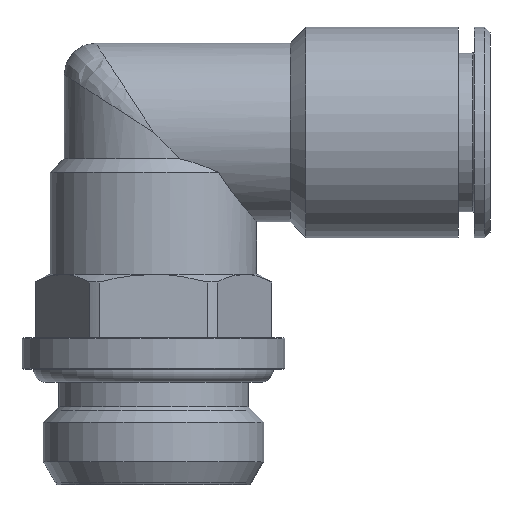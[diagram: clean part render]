
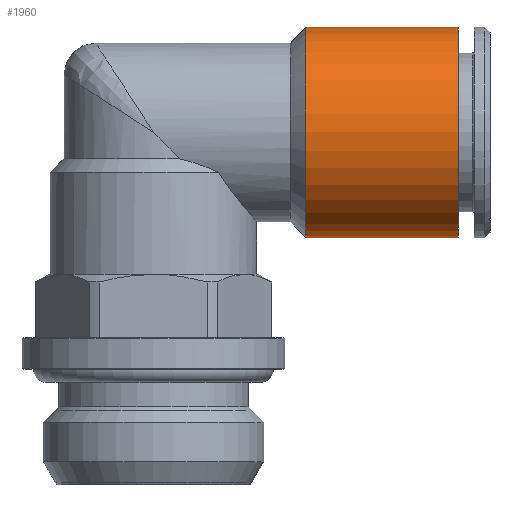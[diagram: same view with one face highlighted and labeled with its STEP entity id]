
A CAD part, front view. The second image highlights one B-rep face of the part: STEP entity #1960.
In plain terms, the highlighted cylindrical face has radius 10 mm (diameter 20 mm), a full revolution.
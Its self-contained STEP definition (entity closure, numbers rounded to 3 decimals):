
#1960=ADVANCED_FACE('', (#1970,#1980), #1990, .T.);
#6860=AXIS2_PLACEMENT_3D('Ax2Pl3d', #6870, #6880, #6890);
#7780=AXIS2_PLACEMENT_3D('Ax2Pl3d', #7790, #7800, #7810);
#7820=AXIS2_PLACEMENT_3D('Ax2Pl3d', #7830, #7840, #7850);
#6870=CARTESIAN_POINT('HicPkt', (43.792,21.386,
21.999));
#22520=CARTESIAN_POINT('', (43.792,21.386,31.999));
#7790=CARTESIAN_POINT('HicPkt', (29.292,21.386,
21.999));
#7830=CARTESIAN_POINT('HicPkt', (29.292,21.386,
21.999));
#22660=CARTESIAN_POINT('', (29.292,21.386,31.999));
#23800=CIRCLE('Circle', #6860, 10.);
#23900=CIRCLE('Circle', #7820, 10.);
#1990=CYLINDRICAL_SURFACE('Zyl', #7780, 10.);
#6880=DIRECTION('Axis', (1.,0.,0.));
#6890=DIRECTION('RefDirection', (0.,0.,-1.));
#7800=DIRECTION('Axis', (1.,0.,0.));
#7810=DIRECTION('RefDirection', (0.,0.,-1.));
#7840=DIRECTION('Axis', (1.,0.,0.));
#7850=DIRECTION('RefDirection', (0.,0.,-1.));
#29310=EDGE_CURVE('', #29320, #29320, #23800, .T.);
#29690=EDGE_CURVE('', #29700, #29700, #23900, .T.);
#33230=EDGE_LOOP('Edge_loop', (#33240));
#33250=EDGE_LOOP('Edge_loop', (#33260));
#1980=FACE_BOUND('', #33250, .T.);
#1970=FACE_OUTER_BOUND('Face_outer_bound', #33230, .T.);
#33240=ORIENTED_EDGE('', *, *, #29310, .F.);
#33260=ORIENTED_EDGE('', *, *, #29690, .T.);
#29320=VERTEX_POINT('', #22520);
#29700=VERTEX_POINT('', #22660);
